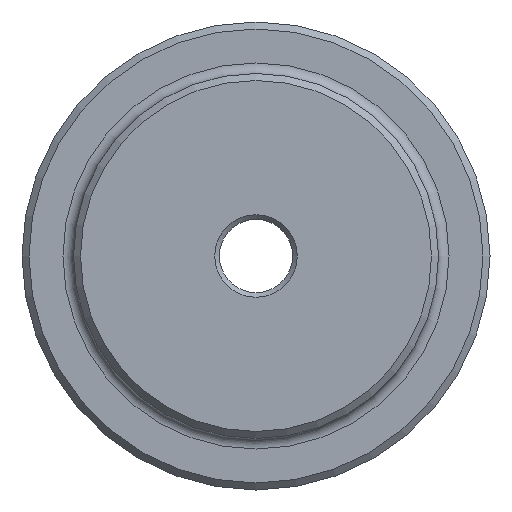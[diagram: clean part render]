
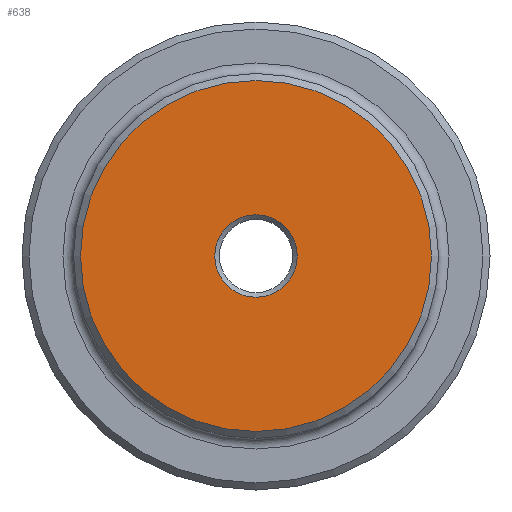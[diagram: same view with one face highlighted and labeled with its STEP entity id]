
A CAD part, left-side view. The second image highlights one B-rep face of the part: STEP entity #638.
In plain terms, the highlighted planar face has unit normal (-1, 0, 0).
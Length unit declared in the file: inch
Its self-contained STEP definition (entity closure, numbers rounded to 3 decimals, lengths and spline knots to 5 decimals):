
#66 = CIRCLE ( 'NONE', #1396, 0.35265 ) ;
#103 = CARTESIAN_POINT ( 'NONE',  ( 0., 0., 0. ) ) ;
#179 = DIRECTION ( 'NONE',  ( 1., 0., 0. ) ) ;
#198 = AXIS2_PLACEMENT_3D ( 'NONE', #800, #179, #357 ) ;
#344 = DIRECTION ( 'NONE',  ( 0., 0., -1. ) ) ;
#357 = DIRECTION ( 'NONE',  ( 0., 0., -1. ) ) ;
#584 = ORIENTED_EDGE ( 'NONE', *, *, #850, .T. ) ;
#638 = ADVANCED_FACE ( 'NONE', ( #1789, #702 ), #1236, .F. ) ;
#702 = FACE_OUTER_BOUND ( 'NONE', #1073, .T. ) ;
#800 = CARTESIAN_POINT ( 'NONE',  ( 0., 0., 0. ) ) ;
#850 = EDGE_CURVE ( 'NONE', #1008, #1008, #1286, .T. ) ;
#944 = AXIS2_PLACEMENT_3D ( 'NONE', #103, #1412, #344 ) ;
#1008 = VERTEX_POINT ( 'NONE', #1664 ) ;
#1056 = ORIENTED_EDGE ( 'NONE', *, *, #1200, .T. ) ;
#1073 = EDGE_LOOP ( 'NONE', ( #584 ) ) ;
#1142 = CARTESIAN_POINT ( 'NONE',  ( 0., 0., -0.35265 ) ) ;
#1152 = EDGE_LOOP ( 'NONE', ( #1056 ) ) ;
#1200 = EDGE_CURVE ( 'NONE', #1785, #1785, #66, .T. ) ;
#1236 = PLANE ( 'NONE',  #198 ) ;
#1286 = CIRCLE ( 'NONE', #944, 1.5 ) ;
#1396 = AXIS2_PLACEMENT_3D ( 'NONE', #1437, #1589, #1677 ) ;
#1412 = DIRECTION ( 'NONE',  ( -1., 0., 0. ) ) ;
#1437 = CARTESIAN_POINT ( 'NONE',  ( 0., 0., 0. ) ) ;
#1589 = DIRECTION ( 'NONE',  ( 1., 0., 0. ) ) ;
#1664 = CARTESIAN_POINT ( 'NONE',  ( 0., 0., -1.5 ) ) ;
#1677 = DIRECTION ( 'NONE',  ( 0., 0., -1. ) ) ;
#1785 = VERTEX_POINT ( 'NONE', #1142 ) ;
#1789 = FACE_BOUND ( 'NONE', #1152, .T. ) ;
